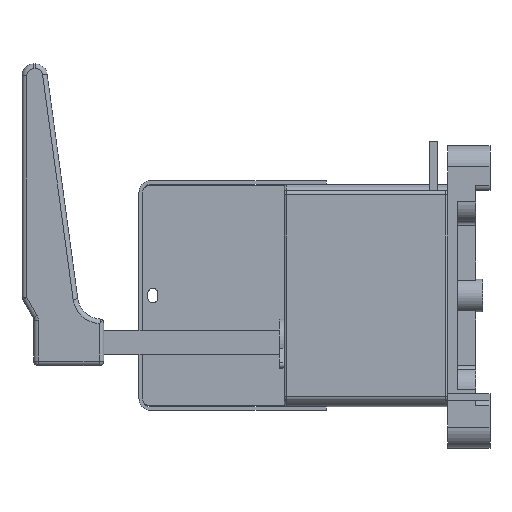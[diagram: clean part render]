
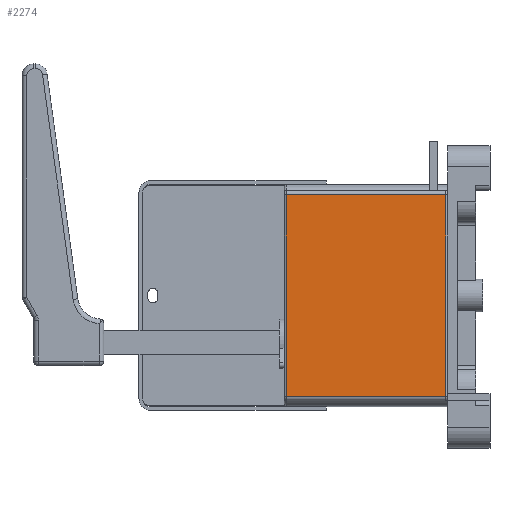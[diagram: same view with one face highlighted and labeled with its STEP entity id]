
A CAD part, left-side view. The second image highlights one B-rep face of the part: STEP entity #2274.
In plain terms, the highlighted planar face has unit normal (-1, 0, 0).
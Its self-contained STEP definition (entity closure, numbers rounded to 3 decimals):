
#2274=ADVANCED_FACE('',(#3644),#2835,.F.);
#2835=PLANE('',#18964);
#3644=FACE_OUTER_BOUND('',#4731,.T.);
#4731=EDGE_LOOP('',(#9414,#9415,#9416,#9417));
#9414=ORIENTED_EDGE('',*,*,#13834,.F.);
#9415=ORIENTED_EDGE('',*,*,#13819,.T.);
#9416=ORIENTED_EDGE('',*,*,#13835,.T.);
#9417=ORIENTED_EDGE('',*,*,#13511,.T.);
#11169=VERTEX_POINT('',#28305);
#11173=VERTEX_POINT('',#28314);
#11369=VERTEX_POINT('',#29025);
#11373=VERTEX_POINT('',#29057);
#13511=EDGE_CURVE('',#11169,#11173,#15442,.T.);
#13819=EDGE_CURVE('',#11369,#11373,#15602,.T.);
#13834=EDGE_CURVE('',#11369,#11173,#15609,.T.);
#13835=EDGE_CURVE('',#11373,#11169,#15610,.T.);
#15442=LINE('',#28315,#17217);
#15602=LINE('',#29058,#17377);
#15609=LINE('',#29111,#17384);
#15610=LINE('',#29113,#17385);
#17217=VECTOR('',#23143,1.);
#17377=VECTOR('',#23809,1.);
#17384=VECTOR('',#23836,1.);
#17385=VECTOR('',#23839,1.);
#18964=AXIS2_PLACEMENT_3D('',#29114,#23840,#23841);
#23143=DIRECTION('',(0.,0.,1.));
#23809=DIRECTION('',(0.,0.,-1.));
#23836=DIRECTION('',(0.,-1.,0.));
#23839=DIRECTION('',(0.,-1.,0.));
#23840=DIRECTION('',(1.,0.,0.));
#23841=DIRECTION('',(0.,0.,-1.));
#28305=CARTESIAN_POINT('',(-41.,1.,-43.));
#28314=CARTESIAN_POINT('',(-41.,1.,43.));
#28315=CARTESIAN_POINT('',(-41.,1.,-43.));
#29025=CARTESIAN_POINT('',(-41.,69.,43.));
#29057=CARTESIAN_POINT('',(-41.,69.,-43.));
#29058=CARTESIAN_POINT('',(-41.,69.,-43.));
#29111=CARTESIAN_POINT('',(-41.,35.,43.));
#29113=CARTESIAN_POINT('',(-41.,35.,-43.));
#29114=CARTESIAN_POINT('',(-41.,35.,-43.));
